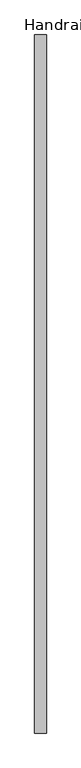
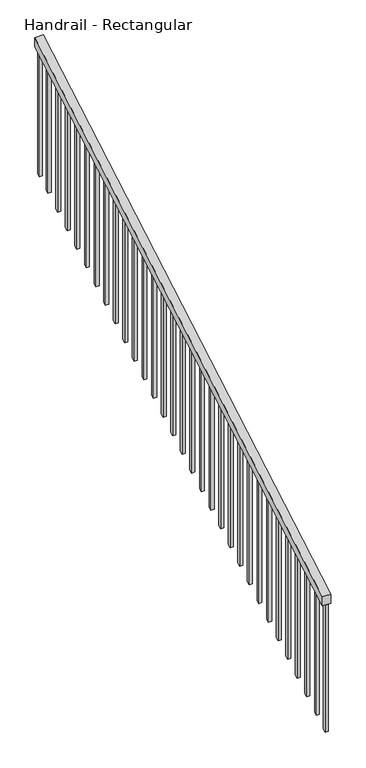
"""IFC4 building model written with IfcOpenShell, lengths in millimetres: railing geometry, Handrail - Rectangular."""

from ifc_helpers import new_model, si_unit, frame, origin, place, context, project, spatial, polyline, outline, extrude, source, transform, mapped, element, save


def handrail_rectangular_a6a2c14e(model_context):
    return source(origin(), model_context, "Body", "SweptSolid", [
        extrude(outline(polyline([(26551.8305304, 855.6573435), (26551.8305304, 914.4), (29599.8305304, 2684.2064516), (29599.8305304, 2625.4637952), (26551.8305304, 855.6573435)])), frame((-8219.6924856, 0.0, 0.0), z_axis=(1.0, 0.0, 0.0), x_axis=(0.0, 1.0, 0.0)), (0.0, 0.0, 1.0), 50.8),
        extrude(outline(polyline([(29507.7555304, 2572.0008919), (29507.7555304, 1749.1550375), (29488.7055304, 1738.0937472), (29488.7055304, 2560.9396016), (29507.7555304, 2572.0008919)])), frame((-8203.8174856, 0.0, 0.0), z_axis=(1.0, 0.0, 0.0), x_axis=(0.0, 1.0, 0.0)), (0.0, 0.0, 1.0), 19.05),
        extrude(outline(polyline([(29406.1555304, 2513.0073435), (29406.1555304, 1690.1614891), (29387.1055304, 1679.1001988), (29387.1055304, 2501.9460532), (29406.1555304, 2513.0073435)])), frame((-8203.8174856, 0.0, 0.0), z_axis=(1.0, 0.0, 0.0), x_axis=(0.0, 1.0, 0.0)), (0.0, 0.0, 1.0), 19.05),
        extrude(outline(polyline([(29304.5555304, 2454.0137952), (29304.5555304, 1631.1679408), (29285.5055304, 1620.1066504), (29285.5055304, 2442.9525048), (29304.5555304, 2454.0137952)])), frame((-8203.8174856, 0.0, 0.0), z_axis=(1.0, 0.0, 0.0), x_axis=(0.0, 1.0, 0.0)), (0.0, 0.0, 1.0), 19.05),
        extrude(outline(polyline([(29202.9555304, 2395.0202468), (29202.9555304, 1572.1743924), (29183.9055304, 1561.113102), (29183.9055304, 2383.9589564), (29202.9555304, 2395.0202468)])), frame((-8203.8174856, 0.0, 0.0), z_axis=(1.0, 0.0, 0.0), x_axis=(0.0, 1.0, 0.0)), (0.0, 0.0, 1.0), 19.05),
        extrude(outline(polyline([(29101.3555304, 2336.0266984), (29101.3555304, 1513.180844), (29082.3055304, 1502.1195537), (29082.3055304, 2324.9654081), (29101.3555304, 2336.0266984)])), frame((-8203.8174856, 0.0, 0.0), z_axis=(1.0, 0.0, 0.0), x_axis=(0.0, 1.0, 0.0)), (0.0, 0.0, 1.0), 19.05),
        extrude(outline(polyline([(28999.7555304, 2277.03315), (28999.7555304, 1454.1872956), (28980.7055304, 1443.1260053), (28980.7055304, 2265.9718597), (28999.7555304, 2277.03315)])), frame((-8203.8174856, 0.0, 0.0), z_axis=(1.0, 0.0, 0.0), x_axis=(0.0, 1.0, 0.0)), (0.0, 0.0, 1.0), 19.05),
        extrude(outline(polyline([(28898.1555304, 2218.0396016), (28898.1555304, 1395.1937472), (28879.1055304, 1384.1324569), (28879.1055304, 2206.9783113), (28898.1555304, 2218.0396016)])), frame((-8203.8174856, 0.0, 0.0), z_axis=(1.0, 0.0, 0.0), x_axis=(0.0, 1.0, 0.0)), (0.0, 0.0, 1.0), 19.05),
        extrude(outline(polyline([(28796.5555304, 2159.0460532), (28796.5555304, 1336.2001988), (28777.5055304, 1325.1389085), (28777.5055304, 2147.9847629), (28796.5555304, 2159.0460532)])), frame((-8203.8174856, 0.0, 0.0), z_axis=(1.0, 0.0, 0.0), x_axis=(0.0, 1.0, 0.0)), (0.0, 0.0, 1.0), 19.05),
        extrude(outline(polyline([(28694.9555304, 2100.0525048), (28694.9555304, 1277.2066504), (28675.9055304, 1266.1453601), (28675.9055304, 2088.9912145), (28694.9555304, 2100.0525048)])), frame((-8203.8174856, 0.0, 0.0), z_axis=(1.0, 0.0, 0.0), x_axis=(0.0, 1.0, 0.0)), (0.0, 0.0, 1.0), 19.05),
        extrude(outline(polyline([(28593.3555304, 2041.0589564), (28593.3555304, 1218.213102), (28574.3055304, 1207.1518117), (28574.3055304, 2029.9976661), (28593.3555304, 2041.0589564)])), frame((-8203.8174856, 0.0, 0.0), z_axis=(1.0, 0.0, 0.0), x_axis=(0.0, 1.0, 0.0)), (0.0, 0.0, 1.0), 19.05),
        extrude(outline(polyline([(28491.7555304, 1982.0654081), (28491.7555304, 1159.2195537), (28472.7055304, 1148.1582633), (28472.7055304, 1971.0041177), (28491.7555304, 1982.0654081)])), frame((-8203.8174856, 0.0, 0.0), z_axis=(1.0, 0.0, 0.0), x_axis=(0.0, 1.0, 0.0)), (0.0, 0.0, 1.0), 19.05),
        extrude(outline(polyline([(28390.1555304, 1923.0718597), (28390.1555304, 1100.2260053), (28371.1055304, 1089.164715), (28371.1055304, 1912.0105693), (28390.1555304, 1923.0718597)])), frame((-8203.8174856, 0.0, 0.0), z_axis=(1.0, 0.0, 0.0), x_axis=(0.0, 1.0, 0.0)), (0.0, 0.0, 1.0), 19.05),
        extrude(outline(polyline([(28288.5555304, 1864.0783113), (28288.5555304, 1041.2324569), (28269.5055304, 1030.1711666), (28269.5055304, 1853.017021), (28288.5555304, 1864.0783113)])), frame((-8203.8174856, 0.0, 0.0), z_axis=(1.0, 0.0, 0.0), x_axis=(0.0, 1.0, 0.0)), (0.0, 0.0, 1.0), 19.05),
        extrude(outline(polyline([(28186.9555304, 1805.0847629), (28186.9555304, 982.2389085), (28167.9055304, 971.1776182), (28167.9055304, 1794.0234726), (28186.9555304, 1805.0847629)])), frame((-8203.8174856, 0.0, 0.0), z_axis=(1.0, 0.0, 0.0), x_axis=(0.0, 1.0, 0.0)), (0.0, 0.0, 1.0), 19.05),
        extrude(outline(polyline([(28085.3555304, 1746.0912145), (28085.3555304, 923.2453601), (28066.3055304, 912.1840698), (28066.3055304, 1735.0299242), (28085.3555304, 1746.0912145)])), frame((-8203.8174856, 0.0, 0.0), z_axis=(1.0, 0.0, 0.0), x_axis=(0.0, 1.0, 0.0)), (0.0, 0.0, 1.0), 19.05),
        extrude(outline(polyline([(27983.7555304, 1687.0976661), (27983.7555304, 864.2518117), (27964.7055304, 853.1905214), (27964.7055304, 1676.0363758), (27983.7555304, 1687.0976661)])), frame((-8203.8174856, 0.0, 0.0), z_axis=(1.0, 0.0, 0.0), x_axis=(0.0, 1.0, 0.0)), (0.0, 0.0, 1.0), 19.05),
        extrude(outline(polyline([(27882.1555304, 1628.1041177), (27882.1555304, 805.2582633), (27863.1055304, 794.196973), (27863.1055304, 1617.0428274), (27882.1555304, 1628.1041177)])), frame((-8203.8174856, 0.0, 0.0), z_axis=(1.0, 0.0, 0.0), x_axis=(0.0, 1.0, 0.0)), (0.0, 0.0, 1.0), 19.05),
        extrude(outline(polyline([(27780.5555304, 1569.1105693), (27780.5555304, 746.264715), (27761.5055304, 735.2034246), (27761.5055304, 1558.049279), (27780.5555304, 1569.1105693)])), frame((-8203.8174856, 0.0, 0.0), z_axis=(1.0, 0.0, 0.0), x_axis=(0.0, 1.0, 0.0)), (0.0, 0.0, 1.0), 19.05),
        extrude(outline(polyline([(27678.9555304, 1510.117021), (27678.9555304, 687.2711666), (27659.9055304, 676.2098762), (27659.9055304, 1499.0557306), (27678.9555304, 1510.117021)])), frame((-8203.8174856, 0.0, 0.0), z_axis=(1.0, 0.0, 0.0), x_axis=(0.0, 1.0, 0.0)), (0.0, 0.0, 1.0), 19.05),
        extrude(outline(polyline([(27577.3555304, 1451.1234726), (27577.3555304, 628.2776182), (27558.3055304, 617.2163279), (27558.3055304, 1440.0621823), (27577.3555304, 1451.1234726)])), frame((-8203.8174856, 0.0, 0.0), z_axis=(1.0, 0.0, 0.0), x_axis=(0.0, 1.0, 0.0)), (0.0, 0.0, 1.0), 19.05),
        extrude(outline(polyline([(27475.7555304, 1392.1299242), (27475.7555304, 569.2840698), (27456.7055304, 558.2227795), (27456.7055304, 1381.0686339), (27475.7555304, 1392.1299242)])), frame((-8203.8174856, 0.0, 0.0), z_axis=(1.0, 0.0, 0.0), x_axis=(0.0, 1.0, 0.0)), (0.0, 0.0, 1.0), 19.05),
        extrude(outline(polyline([(27374.1555304, 1333.1363758), (27374.1555304, 510.2905214), (27355.1055304, 499.2292311), (27355.1055304, 1322.0750855), (27374.1555304, 1333.1363758)])), frame((-8203.8174856, 0.0, 0.0), z_axis=(1.0, 0.0, 0.0), x_axis=(0.0, 1.0, 0.0)), (0.0, 0.0, 1.0), 19.05),
        extrude(outline(polyline([(27272.5555304, 1274.1428274), (27272.5555304, 451.296973), (27253.5055304, 440.2356827), (27253.5055304, 1263.0815371), (27272.5555304, 1274.1428274)])), frame((-8203.8174856, 0.0, 0.0), z_axis=(1.0, 0.0, 0.0), x_axis=(0.0, 1.0, 0.0)), (0.0, 0.0, 1.0), 19.05),
        extrude(outline(polyline([(27170.9555304, 1215.149279), (27170.9555304, 392.3034246), (27151.9055304, 381.2421343), (27151.9055304, 1204.0879887), (27170.9555304, 1215.149279)])), frame((-8203.8174856, 0.0, 0.0), z_axis=(1.0, 0.0, 0.0), x_axis=(0.0, 1.0, 0.0)), (0.0, 0.0, 1.0), 19.05),
        extrude(outline(polyline([(27069.3555304, 1156.1557306), (27069.3555304, 333.3098762), (27050.3055304, 322.2485859), (27050.3055304, 1145.0944403), (27069.3555304, 1156.1557306)])), frame((-8203.8174856, 0.0, 0.0), z_axis=(1.0, 0.0, 0.0), x_axis=(0.0, 1.0, 0.0)), (0.0, 0.0, 1.0), 19.05),
        extrude(outline(polyline([(26967.7555304, 1097.1621823), (26967.7555304, 274.3163279), (26948.7055304, 263.2550375), (26948.7055304, 1086.1008919), (26967.7555304, 1097.1621823)])), frame((-8203.8174856, 0.0, 0.0), z_axis=(1.0, 0.0, 0.0), x_axis=(0.0, 1.0, 0.0)), (0.0, 0.0, 1.0), 19.05),
        extrude(outline(polyline([(26866.1555304, 1038.1686339), (26866.1555304, 215.3227795), (26847.1055304, 204.2614891), (26847.1055304, 1027.1073435), (26866.1555304, 1038.1686339)])), frame((-8203.8174856, 0.0, 0.0), z_axis=(1.0, 0.0, 0.0), x_axis=(0.0, 1.0, 0.0)), (0.0, 0.0, 1.0), 19.05),
        extrude(outline(polyline([(26764.5555304, 979.1750855), (26764.5555304, 156.3292311), (26745.5055304, 145.2679408), (26745.5055304, 968.1137952), (26764.5555304, 979.1750855)])), frame((-8203.8174856, 0.0, 0.0), z_axis=(1.0, 0.0, 0.0), x_axis=(0.0, 1.0, 0.0)), (0.0, 0.0, 1.0), 19.05),
        extrude(outline(polyline([(26662.9555304, 920.1815371), (26662.9555304, 97.3356827), (26643.9055304, 86.2743924), (26643.9055304, 909.1202468), (26662.9555304, 920.1815371)])), frame((-8203.8174856, 0.0, 0.0), z_axis=(1.0, 0.0, 0.0), x_axis=(0.0, 1.0, 0.0)), (0.0, 0.0, 1.0), 19.05),
        extrude(outline(polyline([(29599.8305304, 2625.4637952), (29599.8305304, 1802.6179408), (29580.7805304, 1791.5566504), (29580.7805304, 2614.4025048), (29599.8305304, 2625.4637952)])), frame((-8203.8174856, 0.0, 0.0), z_axis=(1.0, 0.0, 0.0), x_axis=(0.0, 1.0, 0.0)), (0.0, 0.0, 1.0), 19.05),
        extrude(outline(polyline([(26570.8805304, 866.7186339), (26570.8805304, 43.8727795), (26551.8305304, 32.8114891), (26551.8305304, 855.6573435), (26570.8805304, 866.7186339)])), frame((-8203.8174856, 0.0, 0.0), z_axis=(1.0, 0.0, 0.0), x_axis=(0.0, 1.0, 0.0)), (0.0, 0.0, 1.0), 19.05),
    ])


if __name__ == "__main__":
    model = new_model("IFC4")
    model_context = context("Model", 3, world=origin())
    ifc_project = project(units=[si_unit("LENGTHUNIT", "METRE", prefix="MILLI")], contexts=[model_context])
    site = spatial("IfcSite", under=ifc_project)
    building = spatial("IfcBuilding", under=site)
    placement = place(None, origin())
    handrail_rectangular_shape = handrail_rectangular_a6a2c14e(model_context)
    element("IfcRailing", 1, ObjectType="Handrail - Rectangular", at=placement, inside=building, context=model_context, shape_type="MappedRepresentation", body=[
        mapped(handrail_rectangular_shape, transform((0.0, 0.0, 0.0), x_axis=(1.0, 0.0, 0.0), y_axis=(0.0, 1.0, 0.0), z_axis=(0.0, 0.0, 1.0))),
    ])
    save(model, "model.ifc")
